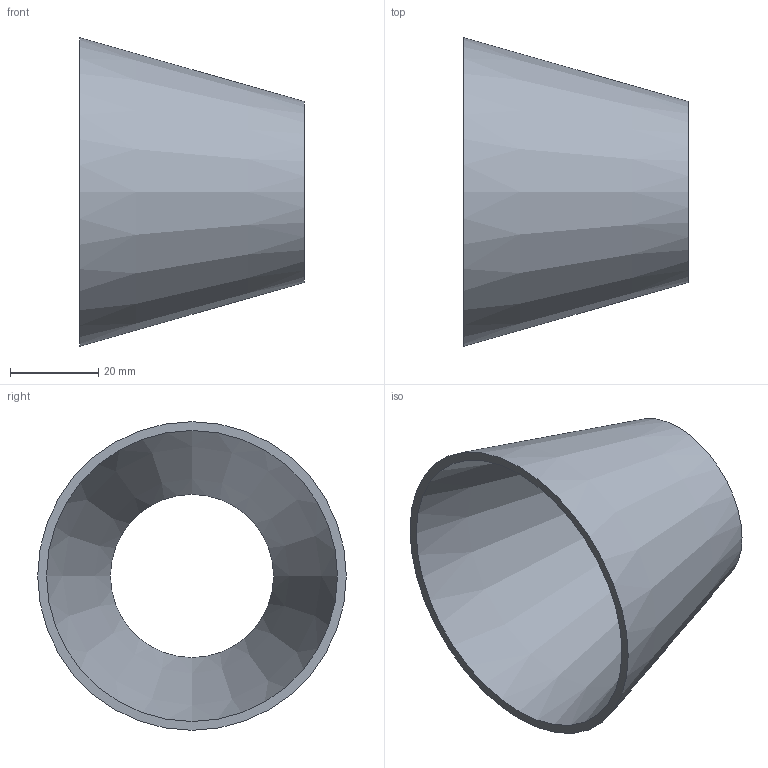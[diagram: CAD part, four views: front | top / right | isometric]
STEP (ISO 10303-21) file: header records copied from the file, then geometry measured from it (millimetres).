
FILE_DESCRIPTION(('FreeCAD Model'),'2;1');
FILE_NAME( '/home/martin/Documents/proyect/accesorios/stp/red-con_DN65-40.step', '2017-12-31T12:23:25',('Author'),(''), 'Open CASCADE STEP processor 6.8','FreeCAD','Unknown');
FILE_SCHEMA(('AUTOMOTIVE_DESIGN_CC2 { 1 2 10303 214 -1 1 5 4 }'));
Length unit declared in the file: millimetre
Products named in the file (1): red-con_DN65-40
Bounding box: 51 x 70 x 70 mm (x, y, z)
Volume: 17143.7 mm3; surface area: 18495.4 mm2
Topology: 1 solids, 1 shells, 4 faces, 6 edges, 4 vertices
Faces by surface type: cone 2, plane 2
Entity records: 191 total; most frequent: CARTESIAN_POINT 33, DIRECTION 26, ORIENTED_EDGE 12, PCURVE 12, DEFINITIONAL_REPRESENTATION 12, AXIS2_PLACEMENT_3D 9, CIRCLE 8, FACE_BOUND 6
